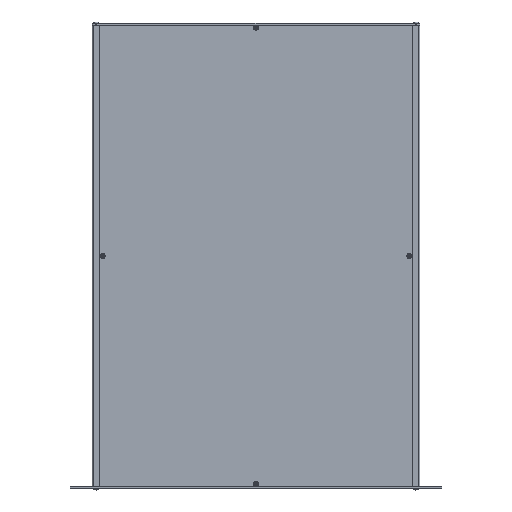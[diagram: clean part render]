
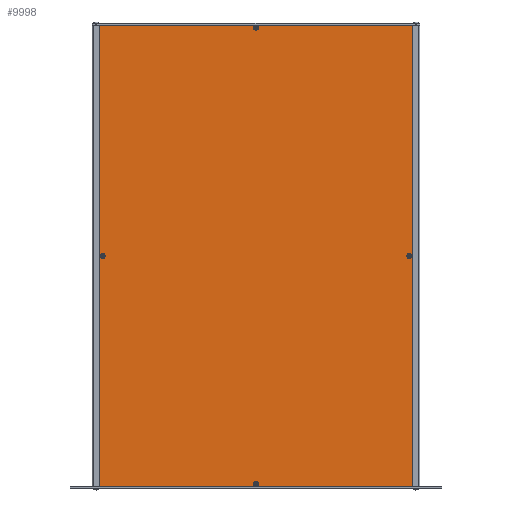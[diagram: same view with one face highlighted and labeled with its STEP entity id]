
A CAD part, top view. The second image highlights one B-rep face of the part: STEP entity #9998.
In plain terms, the highlighted planar face has unit normal (0, 0, 1).
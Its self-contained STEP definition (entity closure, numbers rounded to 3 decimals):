
#715=FACE_BOUND('',#1956,.T.);
#716=FACE_BOUND('',#1957,.T.);
#717=FACE_BOUND('',#1958,.T.);
#718=FACE_BOUND('',#1959,.T.);
#1072=PLANE('',#10913);
#1362=FACE_OUTER_BOUND('',#1955,.T.);
#1955=EDGE_LOOP('',(#7490,#7491,#7492,#7493));
#1956=EDGE_LOOP('',(#7494));
#1957=EDGE_LOOP('',(#7495));
#1958=EDGE_LOOP('',(#7496));
#1959=EDGE_LOOP('',(#7497));
#2923=LINE('',#15671,#3668);
#2924=LINE('',#15673,#3669);
#2925=LINE('',#15675,#3670);
#2926=LINE('',#15676,#3671);
#3668=VECTOR('',#12513,10.);
#3669=VECTOR('',#12514,10.);
#3670=VECTOR('',#12515,10.);
#3671=VECTOR('',#12516,10.);
#4223=CIRCLE('',#10909,3.2);
#4226=CIRCLE('',#10914,3.2);
#4227=CIRCLE('',#10915,3.2);
#4228=CIRCLE('',#10916,3.2);
#4860=VERTEX_POINT('',#15659);
#4863=VERTEX_POINT('',#15669);
#4864=VERTEX_POINT('',#15670);
#4865=VERTEX_POINT('',#15672);
#4866=VERTEX_POINT('',#15674);
#4867=VERTEX_POINT('',#15677);
#4868=VERTEX_POINT('',#15679);
#4869=VERTEX_POINT('',#15681);
#5822=EDGE_CURVE('',#4860,#4860,#4223,.T.);
#5827=EDGE_CURVE('',#4863,#4864,#2923,.T.);
#5828=EDGE_CURVE('',#4864,#4865,#2924,.T.);
#5829=EDGE_CURVE('',#4866,#4865,#2925,.T.);
#5830=EDGE_CURVE('',#4863,#4866,#2926,.T.);
#5831=EDGE_CURVE('',#4867,#4867,#4226,.T.);
#5832=EDGE_CURVE('',#4868,#4868,#4227,.T.);
#5833=EDGE_CURVE('',#4869,#4869,#4228,.T.);
#7490=ORIENTED_EDGE('',*,*,#5827,.T.);
#7491=ORIENTED_EDGE('',*,*,#5828,.T.);
#7492=ORIENTED_EDGE('',*,*,#5829,.F.);
#7493=ORIENTED_EDGE('',*,*,#5830,.F.);
#7494=ORIENTED_EDGE('',*,*,#5831,.F.);
#7495=ORIENTED_EDGE('',*,*,#5832,.F.);
#7496=ORIENTED_EDGE('',*,*,#5833,.F.);
#7497=ORIENTED_EDGE('',*,*,#5822,.F.);
#9998=ADVANCED_FACE('',(#1362,#715,#716,#717,#718),#1072,.T.);
#10909=AXIS2_PLACEMENT_3D('',#15660,#12501,#12502);
#10913=AXIS2_PLACEMENT_3D('',#15668,#12511,#12512);
#10914=AXIS2_PLACEMENT_3D('',#15678,#12517,#12518);
#10915=AXIS2_PLACEMENT_3D('',#15680,#12519,#12520);
#10916=AXIS2_PLACEMENT_3D('',#15682,#12521,#12522);
#12501=DIRECTION('center_axis',(0.,0.,1.));
#12502=DIRECTION('ref_axis',(-1.,0.,0.));
#12511=DIRECTION('center_axis',(0.,0.,1.));
#12512=DIRECTION('ref_axis',(1.,0.,0.));
#12513=DIRECTION('',(1.,0.,0.));
#12514=DIRECTION('',(0.,1.,0.));
#12515=DIRECTION('',(1.,0.,0.));
#12516=DIRECTION('',(0.,1.,0.));
#12517=DIRECTION('center_axis',(0.,0.,1.));
#12518=DIRECTION('ref_axis',(-1.,0.,0.));
#12519=DIRECTION('center_axis',(0.,0.,1.));
#12520=DIRECTION('ref_axis',(-1.,0.,0.));
#12521=DIRECTION('center_axis',(0.,0.,1.));
#12522=DIRECTION('ref_axis',(-1.,0.,0.));
#15659=CARTESIAN_POINT('',(45.5,300.,-42.05));
#15660=CARTESIAN_POINT('Origin',(42.3,300.,-42.05));
#15668=CARTESIAN_POINT('Origin',(38.4,0.,-42.05));
#15669=CARTESIAN_POINT('',(38.4,0.,-42.05));
#15670=CARTESIAN_POINT('',(444.6,0.,-42.05));
#15671=CARTESIAN_POINT('',(38.4,0.,-42.05));
#15672=CARTESIAN_POINT('',(444.6,600.,-42.05));
#15673=CARTESIAN_POINT('',(444.6,0.,-42.05));
#15674=CARTESIAN_POINT('',(38.4,600.,-42.05));
#15675=CARTESIAN_POINT('',(38.4,600.,-42.05));
#15676=CARTESIAN_POINT('',(38.4,0.,-42.05));
#15677=CARTESIAN_POINT('',(443.9,300.,-42.05));
#15678=CARTESIAN_POINT('Origin',(440.7,300.,-42.05));
#15679=CARTESIAN_POINT('',(244.7,596.5,-42.05));
#15680=CARTESIAN_POINT('Origin',(241.5,596.5,-42.05));
#15681=CARTESIAN_POINT('',(244.7,3.5,-42.05));
#15682=CARTESIAN_POINT('Origin',(241.5,3.5,-42.05));
